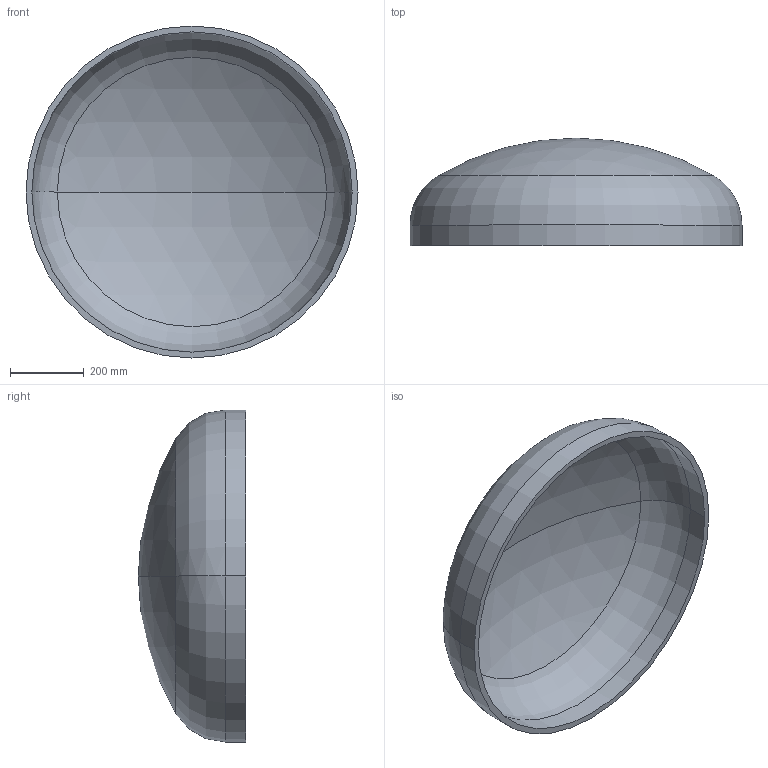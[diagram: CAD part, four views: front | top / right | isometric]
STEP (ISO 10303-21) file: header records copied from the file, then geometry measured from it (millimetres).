
FILE_DESCRIPTION (( 'STEP AP203' ), '1' );
FILE_NAME ('DIN 28013 Korbbogenform_-_Boden DIN 28013 - 900 x 55 - I - s=16.step', '2016-07-01T08:26:49', ( '' ), ( '' ), 'SwSTEP 2.0', 'SolidWorks 2013', '' );
FILE_SCHEMA (( 'CONFIG_CONTROL_DESIGN' ));
Length unit declared in the file: millimetre
Products named in the file (1): DIN 28013 Korbbogenform_-_Boden DIN 28013 - 900 x 55 - I - s=16
Bounding box: 900 x 291.04 x 900 mm (x, y, z)
Volume: 16242300.7 mm3; surface area: 2075257.8 mm2
Topology: 1 solids, 1 shells, 13 faces, 24 edges, 14 vertices
Faces by surface type: torus 4, cylinder 4, sphere 4, plane 1
Entity records: 407 total; most frequent: DIRECTION 72, CARTESIAN_POINT 52, ORIENTED_EDGE 48, AXIS2_PLACEMENT_3D 34, EDGE_CURVE 24, CIRCLE 20, EDGE_LOOP 14, VERTEX_POINT 14
